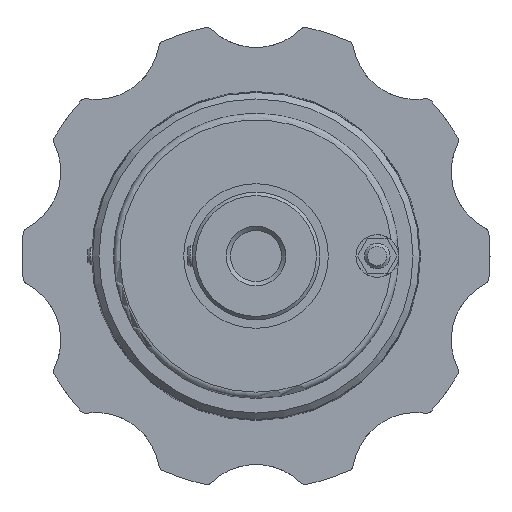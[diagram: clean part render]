
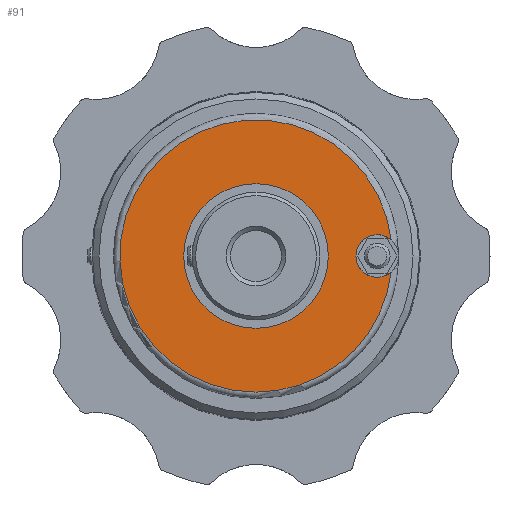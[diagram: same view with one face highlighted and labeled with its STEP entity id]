
A CAD part, left-side view. The second image highlights one B-rep face of the part: STEP entity #91.
In plain terms, the highlighted planar face has unit normal (-1, 0, 0).
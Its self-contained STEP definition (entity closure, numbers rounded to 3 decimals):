
#91 = ADVANCED_FACE( '', ( #222, #223 ), #224, .F. );
#222 = FACE_OUTER_BOUND( '', #468, .T. );
#223 = FACE_BOUND( '', #469, .T. );
#224 = PLANE( '', #470 );
#468 = EDGE_LOOP( '', ( #814, #815 ) );
#469 = EDGE_LOOP( '', ( #816 ) );
#470 = AXIS2_PLACEMENT_3D( '', #817, #818, #819 );
#814 = ORIENTED_EDGE( '', *, *, #1532, .F. );
#815 = ORIENTED_EDGE( '', *, *, #1529, .F. );
#816 = ORIENTED_EDGE( '', *, *, #1535, .T. );
#817 = CARTESIAN_POINT( '', ( 13.8, 17., 0. ) );
#818 = DIRECTION( '', ( 1., 0., 0. ) );
#819 = DIRECTION( '', ( 0., 0., -1. ) );
#1529 = EDGE_CURVE( '', #1787, #1790, #1791, .F. );
#1532 = EDGE_CURVE( '', #1790, #1787, #1795, .T. );
#1535 = EDGE_CURVE( '', #1799, #1799, #1800, .T. );
#1787 = VERTEX_POINT( '', #2270 );
#1790 = VERTEX_POINT( '', #2276 );
#1791 = CIRCLE( '', #2277, 5. );
#1795 = CIRCLE( '', #2286, 32. );
#1799 = VERTEX_POINT( '', #2290 );
#1800 = CIRCLE( '', #2291, 17. );
#2270 = CARTESIAN_POINT( '', ( 13.8, -31.776, 3.777 ) );
#2276 = CARTESIAN_POINT( '', ( 13.8, -31.776, -3.777 ) );
#2277 = AXIS2_PLACEMENT_3D( '', #3323, #3324, #3325 );
#2286 = AXIS2_PLACEMENT_3D( '', #3329, #3330, #3331 );
#2290 = CARTESIAN_POINT( '', ( 13.8, 0., -17. ) );
#2291 = AXIS2_PLACEMENT_3D( '', #3338, #3339, #3340 );
#3323 = CARTESIAN_POINT( '', ( 13.8, -28.5, 0. ) );
#3324 = DIRECTION( '', ( 1., 0., 0. ) );
#3325 = DIRECTION( '', ( 0., 0., -1. ) );
#3329 = CARTESIAN_POINT( '', ( 13.8, 0., 0. ) );
#3330 = DIRECTION( '', ( 1., 0., 0. ) );
#3331 = DIRECTION( '', ( 0., 0., -1. ) );
#3338 = CARTESIAN_POINT( '', ( 13.8, 0., 0. ) );
#3339 = DIRECTION( '', ( 1., 0., 0. ) );
#3340 = DIRECTION( '', ( 0., 0., -1. ) );
